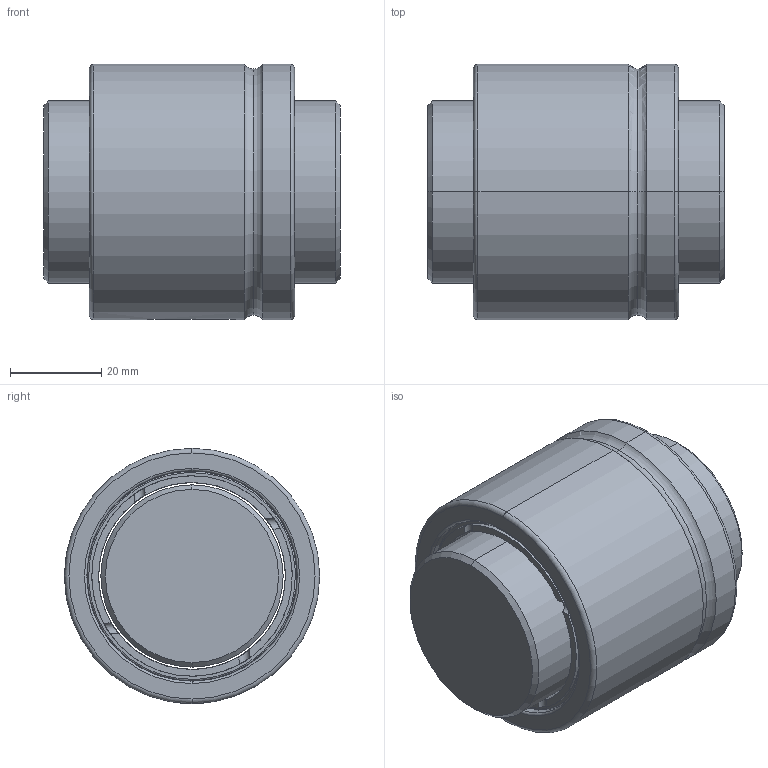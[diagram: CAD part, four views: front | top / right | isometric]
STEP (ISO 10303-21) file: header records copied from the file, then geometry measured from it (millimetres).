
FILE_DESCRIPTION (( 'STEP AP203' ), '1' );
FILE_NAME ('SCIR04005T4-C.STEP', '2020-06-17T07:39:47', ( '' ), ( '' ), 'SwSTEP 2.0', 'SolidWorks 2013', '' );
FILE_SCHEMA (( 'CONFIG_CONTROL_DESIGN' ));
Length unit declared in the file: millimetre
Products named in the file (1): SCIR04005T4-C
Bounding box: 65 x 56 x 56 mm (x, y, z)
Volume: 129638.7 mm3; surface area: 30289.9 mm2
Topology: 2 solids, 2 shells, 168 faces, 430 edges, 271 vertices
Faces by surface type: plane 79, cylinder 29, bspline 22, torus 20, cone 18
Entity records: 6377 total; most frequent: CARTESIAN_POINT 2334, ORIENTED_EDGE 860, DIRECTION 768, EDGE_CURVE 430, AXIS2_PLACEMENT_3D 281, VERTEX_POINT 271, LINE 206, VECTOR 206
